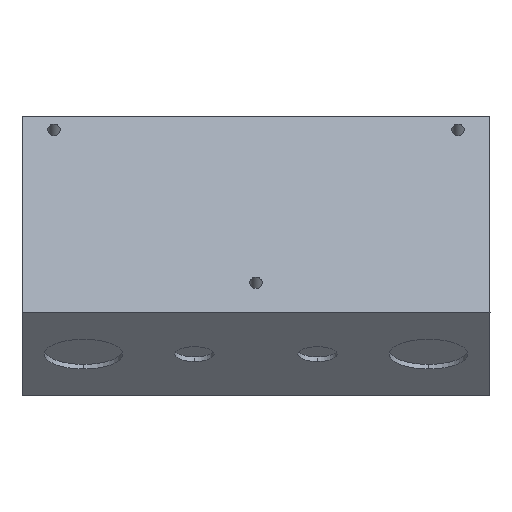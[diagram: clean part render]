
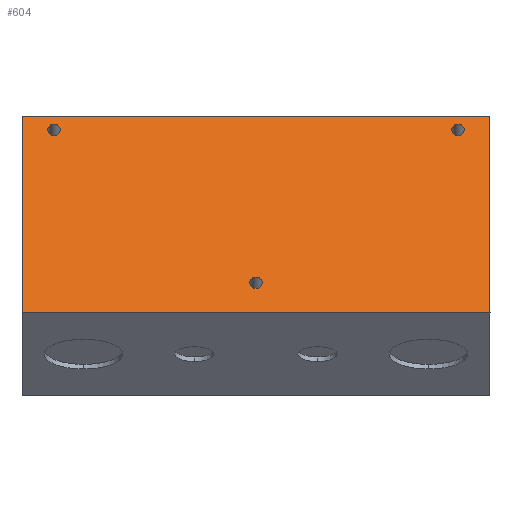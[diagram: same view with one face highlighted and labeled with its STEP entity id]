
A CAD part, top view. The second image highlights one B-rep face of the part: STEP entity #604.
In plain terms, the highlighted planar face has unit normal (0, 0.375, 0.927).
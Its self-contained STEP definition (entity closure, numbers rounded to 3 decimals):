
#5 = DIRECTION ( 'NONE',  ( 1., 0., 0. ) ) ;
#89 = EDGE_CURVE ( 'NONE', #859, #136, #1898, .T. ) ;
#136 = VERTEX_POINT ( 'NONE', #3206 ) ;
#159 = DIRECTION ( 'NONE',  ( 0., 0.375, 0.927 ) ) ;
#175 = CARTESIAN_POINT ( 'NONE',  ( 0., -4.37, 112.297 ) ) ;
#226 = ORIENTED_EDGE ( 'NONE', *, *, #2848, .F. ) ;
#235 = DIRECTION ( 'NONE',  ( 0., 0.375, 0.927 ) ) ;
#258 = CIRCLE ( 'NONE', #505, 1.25 ) ;
#382 = DIRECTION ( 'NONE',  ( 1., 0., 0. ) ) ;
#471 = CARTESIAN_POINT ( 'NONE',  ( 0., -18.277, 117.916 ) ) ;
#505 = AXIS2_PLACEMENT_3D ( 'NONE', #2700, #235, #2686 ) ;
#520 = DIRECTION ( 'NONE',  ( 0., 0.927, -0.375 ) ) ;
#524 = ORIENTED_EDGE ( 'NONE', *, *, #860, .F. ) ;
#533 = CARTESIAN_POINT ( 'NONE',  ( 47.5, -24.304, 120.351 ) ) ;
#548 = AXIS2_PLACEMENT_3D ( 'NONE', #2133, #3736, #2436 ) ;
#583 = VERTEX_POINT ( 'NONE', #1351 ) ;
#587 = VERTEX_POINT ( 'NONE', #3844 ) ;
#604 = ADVANCED_FACE ( 'NONE', ( #2672, #2463, #2374, #936 ), #3590, .F. ) ;
#680 = VERTEX_POINT ( 'NONE', #533 ) ;
#693 = LINE ( 'NONE', #744, #2804 ) ;
#744 = CARTESIAN_POINT ( 'NONE',  ( -47.5, -24.304, 120.351 ) ) ;
#748 = DIRECTION ( 'NONE',  ( 0., 0.375, 0.927 ) ) ;
#859 = VERTEX_POINT ( 'NONE', #1867 ) ;
#860 = EDGE_CURVE ( 'NONE', #2760, #2563, #3599, .T. ) ;
#869 = VECTOR ( 'NONE', #2405, 1000. ) ;
#936 = FACE_OUTER_BOUND ( 'NONE', #1253, .T. ) ;
#941 = CARTESIAN_POINT ( 'NONE',  ( -42.25, 12.783, 105.367 ) ) ;
#1045 = CARTESIAN_POINT ( 'NONE',  ( -41., 12.783, 105.367 ) ) ;
#1099 = DIRECTION ( 'NONE',  ( 0., 0.375, 0.927 ) ) ;
#1101 = ORIENTED_EDGE ( 'NONE', *, *, #2719, .F. ) ;
#1112 = DIRECTION ( 'NONE',  ( 0., -0.375, -0.927 ) ) ;
#1142 = DIRECTION ( 'NONE',  ( -1., 0., 0. ) ) ;
#1160 = LINE ( 'NONE', #3063, #869 ) ;
#1253 = EDGE_LOOP ( 'NONE', ( #3971, #2275, #3380, #3280 ) ) ;
#1351 = CARTESIAN_POINT ( 'NONE',  ( -47.5, -24.304, 120.351 ) ) ;
#1381 = EDGE_LOOP ( 'NONE', ( #226, #524 ) ) ;
#1409 = VERTEX_POINT ( 'NONE', #1809 ) ;
#1645 = EDGE_CURVE ( 'NONE', #136, #859, #3882, .T. ) ;
#1670 = DIRECTION ( 'NONE',  ( 0., 0.375, 0.927 ) ) ;
#1740 = AXIS2_PLACEMENT_3D ( 'NONE', #471, #159, #2935 ) ;
#1775 = VECTOR ( 'NONE', #520, 1000. ) ;
#1809 = CARTESIAN_POINT ( 'NONE',  ( -47.5, 15.565, 104.243 ) ) ;
#1867 = CARTESIAN_POINT ( 'NONE',  ( -1.25, -18.277, 117.916 ) ) ;
#1898 = CIRCLE ( 'NONE', #1740, 1.25 ) ;
#1927 = VECTOR ( 'NONE', #1142, 1000. ) ;
#1933 = CARTESIAN_POINT ( 'NONE',  ( 0., -18.277, 117.916 ) ) ;
#1972 = DIRECTION ( 'NONE',  ( 1., 0., 0. ) ) ;
#2047 = EDGE_LOOP ( 'NONE', ( #2198, #3213 ) ) ;
#2057 = CARTESIAN_POINT ( 'NONE',  ( 47.5, 15.565, 104.243 ) ) ;
#2072 = CARTESIAN_POINT ( 'NONE',  ( -41., 12.783, 105.367 ) ) ;
#2076 = CARTESIAN_POINT ( 'NONE',  ( -47.5, 15.565, 104.243 ) ) ;
#2133 = CARTESIAN_POINT ( 'NONE',  ( 41., 12.783, 105.367 ) ) ;
#2183 = EDGE_LOOP ( 'NONE', ( #1101, #3332 ) ) ;
#2198 = ORIENTED_EDGE ( 'NONE', *, *, #1645, .F. ) ;
#2269 = CARTESIAN_POINT ( 'NONE',  ( 39.75, 12.783, 105.367 ) ) ;
#2275 = ORIENTED_EDGE ( 'NONE', *, *, #2820, .T. ) ;
#2291 = EDGE_CURVE ( 'NONE', #3948, #587, #2751, .T. ) ;
#2352 = LINE ( 'NONE', #2997, #1775 ) ;
#2374 = FACE_BOUND ( 'NONE', #2047, .T. ) ;
#2405 = DIRECTION ( 'NONE',  ( 0., -0.927, 0.375 ) ) ;
#2436 = DIRECTION ( 'NONE',  ( 1., 0., 0. ) ) ;
#2463 = FACE_BOUND ( 'NONE', #1381, .T. ) ;
#2509 = AXIS2_PLACEMENT_3D ( 'NONE', #175, #1112, #3620 ) ;
#2563 = VERTEX_POINT ( 'NONE', #2852 ) ;
#2569 = AXIS2_PLACEMENT_3D ( 'NONE', #1045, #1670, #1972 ) ;
#2574 = EDGE_CURVE ( 'NONE', #583, #680, #693, .T. ) ;
#2672 = FACE_BOUND ( 'NONE', #2183, .T. ) ;
#2680 = AXIS2_PLACEMENT_3D ( 'NONE', #1933, #748, #3784 ) ;
#2686 = DIRECTION ( 'NONE',  ( 1., 0., 0. ) ) ;
#2700 = CARTESIAN_POINT ( 'NONE',  ( 41., 12.783, 105.367 ) ) ;
#2719 = EDGE_CURVE ( 'NONE', #587, #3948, #3349, .T. ) ;
#2751 = CIRCLE ( 'NONE', #3781, 1.25 ) ;
#2760 = VERTEX_POINT ( 'NONE', #2269 ) ;
#2804 = VECTOR ( 'NONE', #382, 1000. ) ;
#2820 = EDGE_CURVE ( 'NONE', #3270, #1409, #3147, .T. ) ;
#2848 = EDGE_CURVE ( 'NONE', #2563, #2760, #258, .T. ) ;
#2852 = CARTESIAN_POINT ( 'NONE',  ( 42.25, 12.783, 105.367 ) ) ;
#2935 = DIRECTION ( 'NONE',  ( 1., 0., 0. ) ) ;
#2997 = CARTESIAN_POINT ( 'NONE',  ( 47.5, -24.304, 120.351 ) ) ;
#3063 = CARTESIAN_POINT ( 'NONE',  ( -47.5, -24.304, 120.351 ) ) ;
#3147 = LINE ( 'NONE', #2076, #1927 ) ;
#3206 = CARTESIAN_POINT ( 'NONE',  ( 1.25, -18.277, 117.916 ) ) ;
#3213 = ORIENTED_EDGE ( 'NONE', *, *, #89, .F. ) ;
#3234 = EDGE_CURVE ( 'NONE', #680, #3270, #2352, .T. ) ;
#3270 = VERTEX_POINT ( 'NONE', #2057 ) ;
#3280 = ORIENTED_EDGE ( 'NONE', *, *, #2574, .T. ) ;
#3332 = ORIENTED_EDGE ( 'NONE', *, *, #2291, .F. ) ;
#3349 = CIRCLE ( 'NONE', #2569, 1.25 ) ;
#3364 = EDGE_CURVE ( 'NONE', #1409, #583, #1160, .T. ) ;
#3380 = ORIENTED_EDGE ( 'NONE', *, *, #3364, .T. ) ;
#3590 = PLANE ( 'NONE',  #2509 ) ;
#3599 = CIRCLE ( 'NONE', #548, 1.25 ) ;
#3620 = DIRECTION ( 'NONE',  ( -1., 0., 0. ) ) ;
#3736 = DIRECTION ( 'NONE',  ( 0., 0.375, 0.927 ) ) ;
#3781 = AXIS2_PLACEMENT_3D ( 'NONE', #2072, #1099, #5 ) ;
#3784 = DIRECTION ( 'NONE',  ( 1., 0., 0. ) ) ;
#3844 = CARTESIAN_POINT ( 'NONE',  ( -39.75, 12.783, 105.367 ) ) ;
#3882 = CIRCLE ( 'NONE', #2680, 1.25 ) ;
#3948 = VERTEX_POINT ( 'NONE', #941 ) ;
#3971 = ORIENTED_EDGE ( 'NONE', *, *, #3234, .T. ) ;
